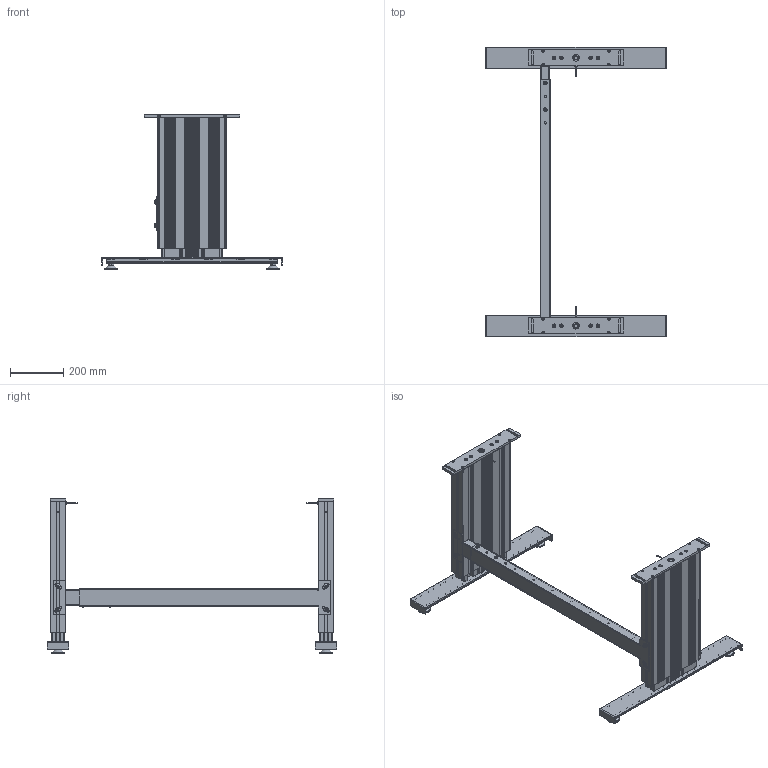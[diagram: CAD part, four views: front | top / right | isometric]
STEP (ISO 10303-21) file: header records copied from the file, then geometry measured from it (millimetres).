
FILE_DESCRIPTION(/* description */ ('Unknown'),/* implementation_level */ '2;1');
FILE_NAME(/* name */ '108.00303_01-Ausgefahren',/* time_stamp */ '2022-02-09T17:05:17+01:00',/* author */ ('Unknown'),/* organization */ ('Unknown'),/* preprocessor_version */ 'ST-DEVELOPER v18.1',/* originating_system */ 'Solid Edge',/* authorisation */ 'Unknown');
FILE_SCHEMA (('AUTOMOTIVE_DESIGN {1 0 10303 214 3 1 1}'));
Products named in the file (38): 108.00303; 306.00629_oa_0; 115.00068_oa_1; 119.00404; 119.00305; 142.00254; 113.00002_70mm; 124.00123; 142.00166; 109.00024_oa_2; 142.00021; 125.00021; 115.00008_oa_3; 125.00063; 126.00146; 142.00081; 142.00031; 306.00629_oa_4; 115.00068_oa_5; 109.00024_oa_6; 115.00008_oa_7; 127.00635; 060339~2; 060340~3; Sechskantmutter M6 DIN 934; Scheibe Ø6,4 DIN 125; Halbrundkopfschraube mit Innensechskant M8x12 ISO 7380-1; Scheibe Ø8,4 DIN 125; Nutenstein M8_montiert; Halbrundkopfschraube mit Innensechskant und Bund M6x16 ISO 7380-2; 127.00515; 127.00520; 127.00556; 127.00557; 127.00520_461_469_Kehlnaht 1_oa_8; 113.00006; 113.00006-ohne Mutter; Mutter M10
Assembly tree (79 placements, depth 4):
  108.00303
    306.00629_oa_0
      115.00068_oa_1
        119.00404
        119.00305
        142.00254  x2
      113.00002_70mm
      124.00123
      142.00166  x4
      109.00024_oa_2
        142.00021
        125.00021
        115.00008_oa_3
        125.00063
        113.00002_70mm
      126.00146
      142.00081
      142.00031
    306.00629_oa_4
      115.00068_oa_5
        119.00404
        119.00305
        142.00254  x2
      113.00002_70mm
      124.00123
      142.00166  x4
      109.00024_oa_6
        142.00021
        125.00021
        115.00008_oa_7
        125.00063
        113.00002_70mm
      126.00146
      142.00081
      142.00031
    127.00635
      060339~2
      060340~3
      Sechskantmutter M6 DIN 934  x4
      Scheibe Ø6,4 DIN 125  x4
      Halbrundkopfschraube mit Innensechskant M8x12 ISO 7380-1  x4
      Scheibe Ø8,4 DIN 125  x4
      Nutenstein M8_montiert  x4
      Halbrundkopfschraube mit Innensechskant und Bund M6x16 ISO 7380-2  x4
    127.00515  x2
      127.00520
        127.00556
        127.00557
        127.00520_461_469_Kehlnaht 1_oa_8
      113.00006
        113.00006-ohne Mutter
        Mutter M10
Bounding box: 680 x 1090 x 582 mm (x, y, z)
Volume: 6980347.4 mm3; surface area: 4340733.4 mm2
Topology: 96 solids, 96 shells, 5790 faces, 16287 edges, 10777 vertices
Faces by surface type: plane 3188, cylinder 2276, cone 128, torus 112, bspline 80, sphere 6
Full cylindrical faces by diameter (mm): 1.8 x4, 2.2 x4, 3 x2, 3.242 x8, 3.4 x2, 3.5 x2, 4 x8, 4.1 x2, 4.2 x2, 5 x10, 5.5 x8, 6 x10, 6.4 x4, 6.6 x8, 6.647 x4, 6.917 x4, 7 x20, 7.5 x16, 8 x10, 8.376 x10, 8.5 x20, 8.7 x8, 9.5 x4, 10 x6, 12 x4, 12.5 x2, 13 x12, 13.5 x2, 13.6 x4, 14 x20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
Entity records: 99943 total; most frequent: CARTESIAN_POINT 17152, ORIENTED_EDGE 14912, DIRECTION 14759, EDGE_CURVE 7456, VERTEX_POINT 5036, AXIS2_PLACEMENT_3D 4960, LINE 4839, VECTOR 4839
